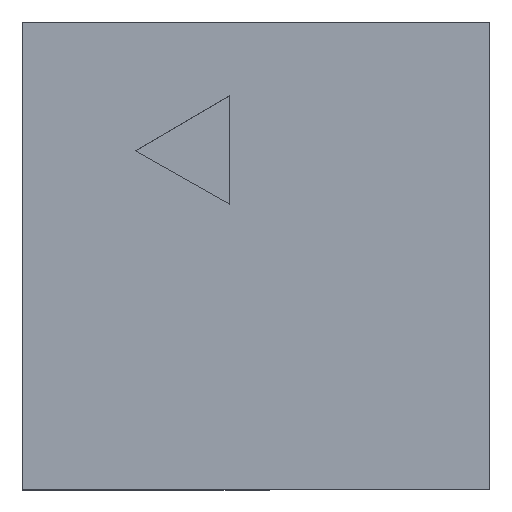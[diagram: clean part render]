
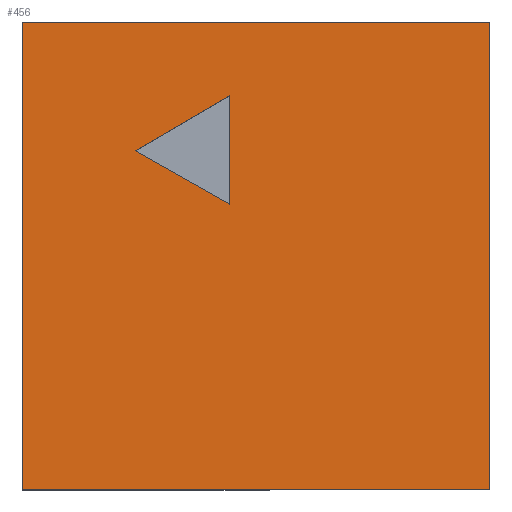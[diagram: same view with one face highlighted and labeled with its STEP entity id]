
A CAD part, top view. The second image highlights one B-rep face of the part: STEP entity #456.
In plain terms, the highlighted planar face has unit normal (0, 0, 1).
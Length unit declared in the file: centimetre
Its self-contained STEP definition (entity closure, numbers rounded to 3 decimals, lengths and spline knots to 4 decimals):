
#51 = LINE ( 'NONE', #637, #621 ) ;
#56 = CARTESIAN_POINT ( 'NONE',  ( 0., 0., 1000. ) ) ;
#58 = CARTESIAN_POINT ( 'NONE',  ( 0., 1000., 1000. ) ) ;
#72 = LINE ( 'NONE', #543, #919 ) ;
#92 = CARTESIAN_POINT ( 'NONE',  ( 241.8649, 724.2193, 1000. ) ) ;
#100 = VERTEX_POINT ( 'NONE', #58 ) ;
#103 = VECTOR ( 'NONE', #711, 100. ) ;
#115 = CARTESIAN_POINT ( 'NONE',  ( 443.9718, 842.2488, 1000. ) ) ;
#121 = ORIENTED_EDGE ( 'NONE', *, *, #890, .T. ) ;
#175 = CARTESIAN_POINT ( 'NONE',  ( 1000., 1000., 1000. ) ) ;
#176 = ORIENTED_EDGE ( 'NONE', *, *, #284, .F. ) ;
#200 = DIRECTION ( 'NONE',  ( -0.864, -0.504, 0. ) ) ;
#201 = CARTESIAN_POINT ( 'NONE',  ( 1000., 1000., 1000. ) ) ;
#215 = EDGE_CURVE ( 'NONE', #689, #814, #839, .T. ) ;
#251 = ORIENTED_EDGE ( 'NONE', *, *, #813, .T. ) ;
#262 = FACE_BOUND ( 'NONE', #691, .T. ) ;
#264 = LINE ( 'NONE', #647, #520 ) ;
#273 = DIRECTION ( 'NONE',  ( 1., 0., 0. ) ) ;
#284 = EDGE_CURVE ( 'NONE', #559, #757, #390, .T. ) ;
#325 = VERTEX_POINT ( 'NONE', #175 ) ;
#359 = VECTOR ( 'NONE', #200, 100. ) ;
#385 = CARTESIAN_POINT ( 'NONE',  ( 0., 0., 1000. ) ) ;
#390 = LINE ( 'NONE', #609, #359 ) ;
#402 = DIRECTION ( 'NONE',  ( 0., 1., 0. ) ) ;
#405 = LINE ( 'NONE', #201, #103 ) ;
#425 = CARTESIAN_POINT ( 'NONE',  ( 0., 1000., 1000. ) ) ;
#437 = LINE ( 'NONE', #425, #490 ) ;
#445 = ORIENTED_EDGE ( 'NONE', *, *, #215, .T. ) ;
#456 = ADVANCED_FACE ( 'NONE', ( #262, #646 ), #796, .T. ) ;
#490 = VECTOR ( 'NONE', #585, 100. ) ;
#500 = EDGE_CURVE ( 'NONE', #786, #559, #72, .T. ) ;
#515 = EDGE_LOOP ( 'NONE', ( #251, #445, #560, #121 ) ) ;
#520 = VECTOR ( 'NONE', #699, 100. ) ;
#537 = ORIENTED_EDGE ( 'NONE', *, *, #500, .F. ) ;
#543 = CARTESIAN_POINT ( 'NONE',  ( 443.9718, 610.2188, 1000. ) ) ;
#559 = VERTEX_POINT ( 'NONE', #115 ) ;
#560 = ORIENTED_EDGE ( 'NONE', *, *, #877, .T. ) ;
#583 = CARTESIAN_POINT ( 'NONE',  ( 443.9718, 610.2188, 1000. ) ) ;
#585 = DIRECTION ( 'NONE',  ( 0., -1., 0. ) ) ;
#609 = CARTESIAN_POINT ( 'NONE',  ( 443.9718, 842.2488, 1000. ) ) ;
#621 = VECTOR ( 'NONE', #652, 100. ) ;
#637 = CARTESIAN_POINT ( 'NONE',  ( 0., 1000., 1000. ) ) ;
#646 = FACE_OUTER_BOUND ( 'NONE', #515, .T. ) ;
#647 = CARTESIAN_POINT ( 'NONE',  ( 241.8649, 724.2193, 1000. ) ) ;
#652 = DIRECTION ( 'NONE',  ( -1., 0., 0. ) ) ;
#677 = DIRECTION ( 'NONE',  ( 1., 0., 0. ) ) ;
#687 = EDGE_CURVE ( 'NONE', #757, #786, #264, .T. ) ;
#689 = VERTEX_POINT ( 'NONE', #56 ) ;
#691 = EDGE_LOOP ( 'NONE', ( #176, #537, #770 ) ) ;
#699 = DIRECTION ( 'NONE',  ( 0.871, -0.491, 0. ) ) ;
#700 = AXIS2_PLACEMENT_3D ( 'NONE', #924, #935, #273 ) ;
#711 = DIRECTION ( 'NONE',  ( 0., 1., 0. ) ) ;
#729 = CARTESIAN_POINT ( 'NONE',  ( 1000., 0., 1000. ) ) ;
#757 = VERTEX_POINT ( 'NONE', #92 ) ;
#770 = ORIENTED_EDGE ( 'NONE', *, *, #687, .F. ) ;
#786 = VERTEX_POINT ( 'NONE', #583 ) ;
#796 = PLANE ( 'NONE',  #700 ) ;
#813 = EDGE_CURVE ( 'NONE', #100, #689, #437, .T. ) ;
#814 = VERTEX_POINT ( 'NONE', #729 ) ;
#839 = LINE ( 'NONE', #385, #857 ) ;
#857 = VECTOR ( 'NONE', #677, 100. ) ;
#877 = EDGE_CURVE ( 'NONE', #814, #325, #405, .T. ) ;
#890 = EDGE_CURVE ( 'NONE', #325, #100, #51, .T. ) ;
#919 = VECTOR ( 'NONE', #402, 100. ) ;
#924 = CARTESIAN_POINT ( 'NONE',  ( 0., 0., 1000. ) ) ;
#935 = DIRECTION ( 'NONE',  ( 0., 0., 1. ) ) ;
